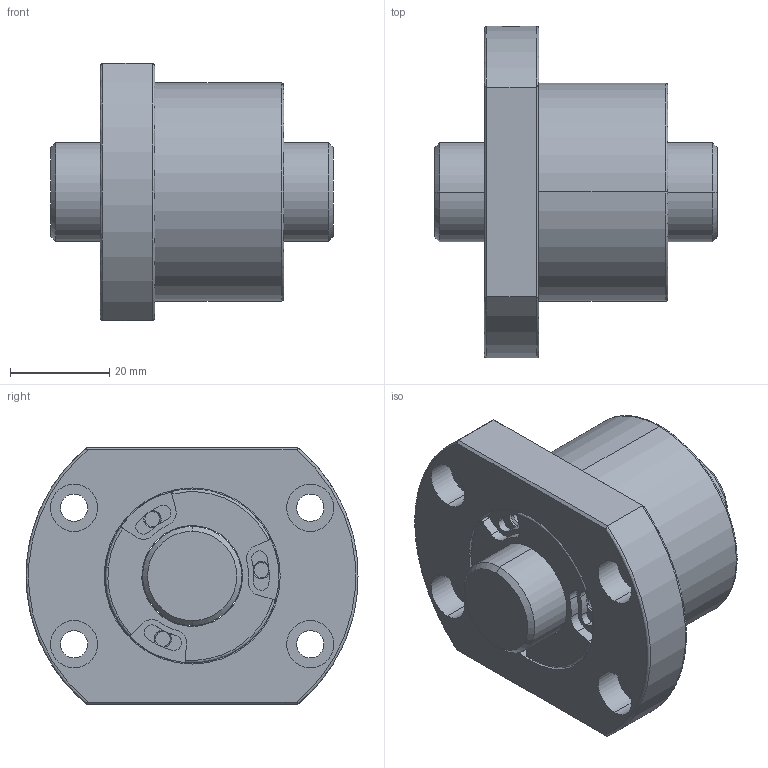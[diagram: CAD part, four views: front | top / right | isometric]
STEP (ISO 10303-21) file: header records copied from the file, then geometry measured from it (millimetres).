
FILE_DESCRIPTION (( 'STEP AP203' ), '1' );
FILE_NAME ('SFVSR02005C1D-C.STEP', '2020-06-17T04:02:06', ( '' ), ( '' ), 'SwSTEP 2.0', 'SolidWorks 2013', '' );
FILE_SCHEMA (( 'CONFIG_CONTROL_DESIGN' ));
Length unit declared in the file: millimetre
Products named in the file (1): SFVSR02005C1D-C
Bounding box: 57 x 66.94 x 52 mm (x, y, z)
Volume: 74007.9 mm3; surface area: 21508.3 mm2
Topology: 2 solids, 2 shells, 246 faces, 604 edges, 386 vertices
Faces by surface type: cylinder 136, plane 80, cone 16, bspline 14
Entity records: 8188 total; most frequent: CARTESIAN_POINT 2104, DIRECTION 1374, ORIENTED_EDGE 1208, EDGE_CURVE 604, AXIS2_PLACEMENT_3D 583, VERTEX_POINT 386, CIRCLE 350, EDGE_LOOP 284
